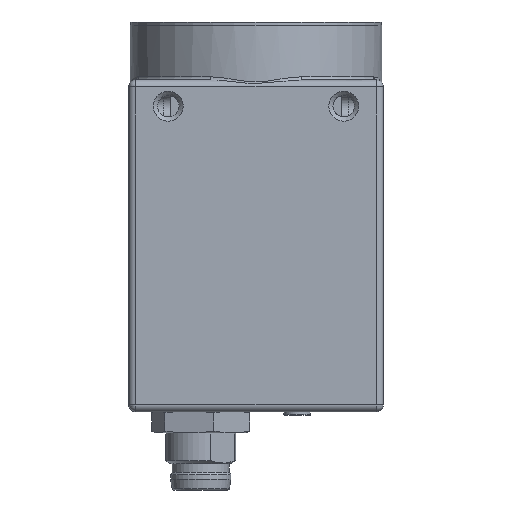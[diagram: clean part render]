
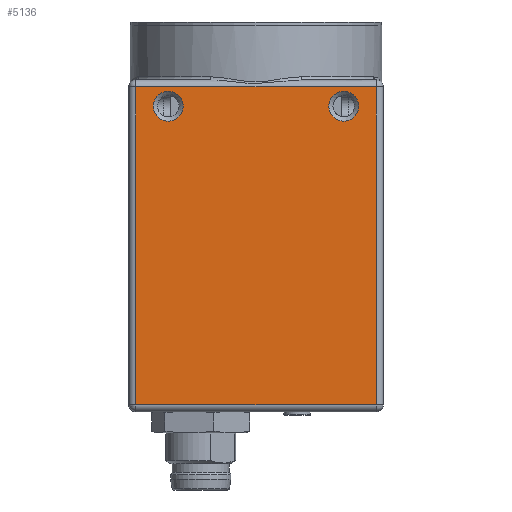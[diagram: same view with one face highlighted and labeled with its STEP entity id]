
A CAD part, left-side view. The second image highlights one B-rep face of the part: STEP entity #5136.
In plain terms, the highlighted planar face has unit normal (-1, 0, 0).
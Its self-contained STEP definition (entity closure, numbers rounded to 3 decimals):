
#5136 = ADVANCED_FACE( '', ( #11119, #11120, #11121 ), #11122, .T. );
#11119 = FACE_BOUND( '', #20385, .T. );
#11120 = FACE_BOUND( '', #20386, .T. );
#11121 = FACE_OUTER_BOUND( '', #20387, .T. );
#11122 = PLANE( '', #20388 );
#20385 = EDGE_LOOP( '', ( #32965 ) );
#20386 = EDGE_LOOP( '', ( #32966 ) );
#20387 = EDGE_LOOP( '', ( #32967, #32968, #32969, #32970 ) );
#20388 = AXIS2_PLACEMENT_3D( '', #32971, #32972, #32973 );
#32965 = ORIENTED_EDGE( '', *, *, #40638, .T. );
#32966 = ORIENTED_EDGE( '', *, *, #40498, .T. );
#32967 = ORIENTED_EDGE( '', *, *, #40212, .T. );
#32968 = ORIENTED_EDGE( '', *, *, #40514, .T. );
#32969 = ORIENTED_EDGE( '', *, *, #40441, .T. );
#32970 = ORIENTED_EDGE( '', *, *, #40631, .T. );
#32971 = CARTESIAN_POINT( '', ( -14.5, -14.5, 12.2 ) );
#32972 = DIRECTION( '', ( -1., 0., 0. ) );
#32973 = DIRECTION( '', ( 0., 0., 1. ) );
#40212 = EDGE_CURVE( '', #43163, #46721, #46828, .T. );
#40441 = EDGE_CURVE( '', #46880, #46811, #47121, .T. );
#40498 = EDGE_CURVE( '', #47189, #47189, #47190, .T. );
#40514 = EDGE_CURVE( '', #46721, #46880, #47209, .F. );
#40631 = EDGE_CURVE( '', #46811, #43163, #47347, .T. );
#40638 = EDGE_CURVE( '', #47355, #47355, #47356, .T. );
#43163 = VERTEX_POINT( '', #51017 );
#46721 = VERTEX_POINT( '', #56718 );
#46811 = VERTEX_POINT( '', #56825 );
#46828 = LINE( '', #56847, #56848 );
#46880 = VERTEX_POINT( '', #56912 );
#47121 = LINE( '', #57388, #57389 );
#47189 = VERTEX_POINT( '', #57479 );
#47190 = CIRCLE( '', #57480, 1.7 );
#47209 = LINE( '', #57503, #57504 );
#47347 = LINE( '', #57710, #57711 );
#47355 = VERTEX_POINT( '', #57720 );
#47356 = CIRCLE( '', #57721, 1.7 );
#51017 = CARTESIAN_POINT( '', ( -14.5, 13.7, -24.85 ) );
#56718 = CARTESIAN_POINT( '', ( -14.5, -13.7, -24.85 ) );
#56825 = CARTESIAN_POINT( '', ( -14.5, 13.7, 11.4 ) );
#56847 = CARTESIAN_POINT( '', ( -14.5, -14.5, -24.85 ) );
#56848 = VECTOR( '', #62978, 1000. );
#56912 = CARTESIAN_POINT( '', ( -14.5, -13.7, 11.4 ) );
#57388 = CARTESIAN_POINT( '', ( -14.5, 14.5, 11.4 ) );
#57389 = VECTOR( '', #63202, 1000. );
#57479 = CARTESIAN_POINT( '', ( -14.5, 11.7, 9.2 ) );
#57480 = AXIS2_PLACEMENT_3D( '', #63243, #63244, #63245 );
#57503 = CARTESIAN_POINT( '', ( -14.5, -13.7, 12.2 ) );
#57504 = VECTOR( '', #63259, 1000. );
#57710 = CARTESIAN_POINT( '', ( -14.5, 13.7, 12.2 ) );
#57711 = VECTOR( '', #63343, 1000. );
#57720 = CARTESIAN_POINT( '', ( -14.5, -8.3, 9.2 ) );
#57721 = AXIS2_PLACEMENT_3D( '', #63348, #63349, #63350 );
#62978 = DIRECTION( '', ( 0., -1., 0. ) );
#63202 = DIRECTION( '', ( 0., 1., 0. ) );
#63243 = CARTESIAN_POINT( '', ( -14.5, 10., 9.2 ) );
#63244 = DIRECTION( '', ( 1., 0., 0. ) );
#63245 = DIRECTION( '', ( 0., 1., 0. ) );
#63259 = DIRECTION( '', ( 0., 0., -1. ) );
#63343 = DIRECTION( '', ( 0., 0., -1. ) );
#63348 = CARTESIAN_POINT( '', ( -14.5, -10., 9.2 ) );
#63349 = DIRECTION( '', ( 1., 0., 0. ) );
#63350 = DIRECTION( '', ( 0., 1., 0. ) );
